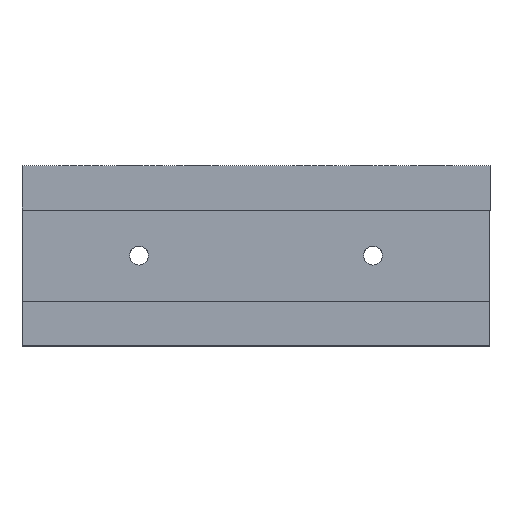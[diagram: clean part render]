
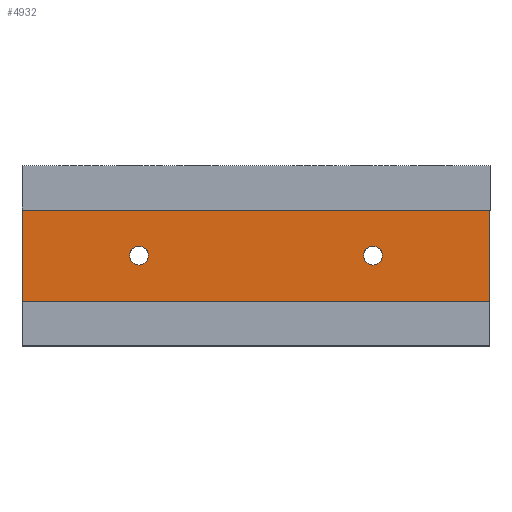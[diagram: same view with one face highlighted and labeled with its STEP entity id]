
A CAD part, top view. The second image highlights one B-rep face of the part: STEP entity #4932.
In plain terms, the highlighted planar face has unit normal (0, 0, 1).
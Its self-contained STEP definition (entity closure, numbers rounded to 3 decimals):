
#699 = CIRCLE ( 'NONE', #2806, 3.4 ) ;
#874 = DIRECTION ( 'NONE',  ( 1., 0., 0. ) ) ;
#1030 = CARTESIAN_POINT ( 'NONE',  ( -89.796, 15.915, 15. ) ) ;
#1092 = CARTESIAN_POINT ( 'NONE',  ( -89.796, -16.785, 15. ) ) ;
#1215 = CIRCLE ( 'NONE', #13444, 3.4 ) ;
#1377 = LINE ( 'NONE', #13959, #19366 ) ;
#1437 = CARTESIAN_POINT ( 'NONE',  ( -51.196, -0.435, 15. ) ) ;
#1520 = CIRCLE ( 'NONE', #7777, 3.4 ) ;
#1932 = DIRECTION ( 'NONE',  ( 1., 0., 0. ) ) ;
#2002 = VERTEX_POINT ( 'NONE', #5356 ) ;
#2168 = PLANE ( 'NONE',  #12450 ) ;
#2179 = CARTESIAN_POINT ( 'NONE',  ( 36.204, -0.435, 15. ) ) ;
#2507 = FACE_BOUND ( 'NONE', #16640, .T. ) ;
#2709 = EDGE_LOOP ( 'NONE', ( #12169, #12702 ) ) ;
#2806 = AXIS2_PLACEMENT_3D ( 'NONE', #12851, #14687, #18359 ) ;
#2974 = ORIENTED_EDGE ( 'NONE', *, *, #19108, .T. ) ;
#3198 = CARTESIAN_POINT ( 'NONE',  ( 78.204, -16.785, 15. ) ) ;
#3549 = DIRECTION ( 'NONE',  ( 0., 0., -1. ) ) ;
#3808 = CARTESIAN_POINT ( 'NONE',  ( 32.804, -0.435, 15. ) ) ;
#4113 = CARTESIAN_POINT ( 'NONE',  ( -89.796, 15.915, 15. ) ) ;
#4518 = DIRECTION ( 'NONE',  ( 0., -1., 0. ) ) ;
#4932 = ADVANCED_FACE ( 'NONE', ( #11273, #2507, #21809 ), #2168, .T. ) ;
#5356 = CARTESIAN_POINT ( 'NONE',  ( -44.396, -0.435, 15. ) ) ;
#5573 = VERTEX_POINT ( 'NONE', #4113 ) ;
#5585 = DIRECTION ( 'NONE',  ( -1., 0., 0. ) ) ;
#5750 = EDGE_CURVE ( 'NONE', #5573, #15826, #9834, .T. ) ;
#5827 = DIRECTION ( 'NONE',  ( -1., 0., 0. ) ) ;
#6308 = EDGE_CURVE ( 'NONE', #13056, #8580, #1215, .T. ) ;
#7777 = AXIS2_PLACEMENT_3D ( 'NONE', #12441, #15816, #5827 ) ;
#8284 = AXIS2_PLACEMENT_3D ( 'NONE', #17106, #12359, #19070 ) ;
#8468 = ORIENTED_EDGE ( 'NONE', *, *, #6308, .T. ) ;
#8580 = VERTEX_POINT ( 'NONE', #3808 ) ;
#8609 = EDGE_CURVE ( 'NONE', #10636, #16265, #21672, .T. ) ;
#8659 = DIRECTION ( 'NONE',  ( -1., 0., 0. ) ) ;
#9275 = ORIENTED_EDGE ( 'NONE', *, *, #12383, .T. ) ;
#9834 = LINE ( 'NONE', #1030, #15349 ) ;
#10636 = VERTEX_POINT ( 'NONE', #3198 ) ;
#10739 = CARTESIAN_POINT ( 'NONE',  ( 78.204, 15.915, 15. ) ) ;
#10769 = LINE ( 'NONE', #1092, #11032 ) ;
#10865 = EDGE_CURVE ( 'NONE', #2002, #20102, #16711, .T. ) ;
#10867 = ORIENTED_EDGE ( 'NONE', *, *, #13550, .T. ) ;
#11032 = VECTOR ( 'NONE', #874, 1000. ) ;
#11273 = FACE_BOUND ( 'NONE', #2709, .T. ) ;
#12169 = ORIENTED_EDGE ( 'NONE', *, *, #20012, .T. ) ;
#12359 = DIRECTION ( 'NONE',  ( 0., 0., -1. ) ) ;
#12383 = EDGE_CURVE ( 'NONE', #15826, #10636, #10769, .T. ) ;
#12441 = CARTESIAN_POINT ( 'NONE',  ( 36.204, -0.435, 15. ) ) ;
#12450 = AXIS2_PLACEMENT_3D ( 'NONE', #17215, #20490, #1932 ) ;
#12572 = DIRECTION ( 'NONE',  ( 0., 1., 0. ) ) ;
#12599 = CARTESIAN_POINT ( 'NONE',  ( 39.604, -0.435, 15. ) ) ;
#12702 = ORIENTED_EDGE ( 'NONE', *, *, #10865, .T. ) ;
#12851 = CARTESIAN_POINT ( 'NONE',  ( -47.796, -0.435, 15. ) ) ;
#13056 = VERTEX_POINT ( 'NONE', #12599 ) ;
#13444 = AXIS2_PLACEMENT_3D ( 'NONE', #2179, #3549, #8659 ) ;
#13477 = VECTOR ( 'NONE', #12572, 1000. ) ;
#13550 = EDGE_CURVE ( 'NONE', #16265, #5573, #1377, .T. ) ;
#13959 = CARTESIAN_POINT ( 'NONE',  ( -89.796, 15.915, 15. ) ) ;
#14687 = DIRECTION ( 'NONE',  ( 0., 0., -1. ) ) ;
#15349 = VECTOR ( 'NONE', #4518, 1000. ) ;
#15816 = DIRECTION ( 'NONE',  ( 0., 0., -1. ) ) ;
#15826 = VERTEX_POINT ( 'NONE', #15909 ) ;
#15909 = CARTESIAN_POINT ( 'NONE',  ( -89.796, -16.785, 15. ) ) ;
#16265 = VERTEX_POINT ( 'NONE', #17445 ) ;
#16640 = EDGE_LOOP ( 'NONE', ( #2974, #8468 ) ) ;
#16711 = CIRCLE ( 'NONE', #8284, 3.4 ) ;
#17106 = CARTESIAN_POINT ( 'NONE',  ( -47.796, -0.435, 15. ) ) ;
#17215 = CARTESIAN_POINT ( 'NONE',  ( -5.796, -0.435, 15. ) ) ;
#17445 = CARTESIAN_POINT ( 'NONE',  ( 78.204, 15.915, 15. ) ) ;
#18359 = DIRECTION ( 'NONE',  ( -1., 0., 0. ) ) ;
#19070 = DIRECTION ( 'NONE',  ( -1., 0., 0. ) ) ;
#19108 = EDGE_CURVE ( 'NONE', #8580, #13056, #1520, .T. ) ;
#19366 = VECTOR ( 'NONE', #5585, 1000. ) ;
#20012 = EDGE_CURVE ( 'NONE', #20102, #2002, #699, .T. ) ;
#20102 = VERTEX_POINT ( 'NONE', #1437 ) ;
#20120 = ORIENTED_EDGE ( 'NONE', *, *, #8609, .T. ) ;
#20490 = DIRECTION ( 'NONE',  ( 0., 0., 1. ) ) ;
#21193 = EDGE_LOOP ( 'NONE', ( #20120, #10867, #21266, #9275 ) ) ;
#21266 = ORIENTED_EDGE ( 'NONE', *, *, #5750, .T. ) ;
#21672 = LINE ( 'NONE', #10739, #13477 ) ;
#21809 = FACE_OUTER_BOUND ( 'NONE', #21193, .T. ) ;
